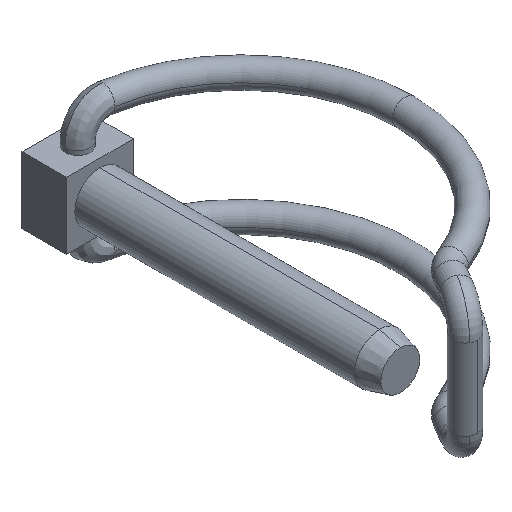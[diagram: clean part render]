
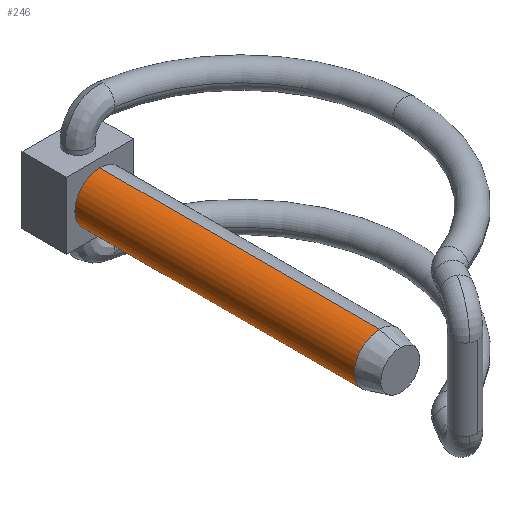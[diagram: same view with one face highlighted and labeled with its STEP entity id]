
A CAD part, isometric view. The second image highlights one B-rep face of the part: STEP entity #246.
In plain terms, the highlighted cylindrical face has radius 5 mm (diameter 10 mm), a partial arc.
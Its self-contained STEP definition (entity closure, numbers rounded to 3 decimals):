
#153 = CARTESIAN_POINT ( 'NONE',  ( 0., -55.853, -5. ) ) ;
#202 = DIRECTION ( 'NONE',  ( 0., 1., 0. ) ) ;
#246 = ADVANCED_FACE ( 'NONE', ( #946 ), #1655, .T. ) ;
#396 = CARTESIAN_POINT ( 'NONE',  ( 0., -60., 0. ) ) ;
#425 = ORIENTED_EDGE ( 'NONE', *, *, #1459, .F. ) ;
#471 = CARTESIAN_POINT ( 'NONE',  ( 0., 0., -5. ) ) ;
#497 = LINE ( 'NONE', #762, #633 ) ;
#537 = AXIS2_PLACEMENT_3D ( 'NONE', #1765, #202, #1212 ) ;
#543 = EDGE_CURVE ( 'NONE', #1306, #1753, #751, .T. ) ;
#633 = VECTOR ( 'NONE', #1755, 1000. ) ;
#701 = EDGE_LOOP ( 'NONE', ( #425, #1721, #1533, #1515 ) ) ;
#751 = LINE ( 'NONE', #1188, #1404 ) ;
#762 = CARTESIAN_POINT ( 'NONE',  ( 0., -60., -5. ) ) ;
#827 = DIRECTION ( 'NONE',  ( 0., 0., 1. ) ) ;
#946 = FACE_OUTER_BOUND ( 'NONE', #701, .T. ) ;
#1071 = CARTESIAN_POINT ( 'NONE',  ( 0., -55.853, 5. ) ) ;
#1176 = DIRECTION ( 'NONE',  ( 0., 0., 1. ) ) ;
#1188 = CARTESIAN_POINT ( 'NONE',  ( 0., -60., 5. ) ) ;
#1212 = DIRECTION ( 'NONE',  ( 0., 0., 1. ) ) ;
#1219 = DIRECTION ( 'NONE',  ( 0., 1., 0. ) ) ;
#1252 = DIRECTION ( 'NONE',  ( 0., 1., 0. ) ) ;
#1301 = DIRECTION ( 'NONE',  ( 0., 1., 0. ) ) ;
#1306 = VERTEX_POINT ( 'NONE', #1071 ) ;
#1308 = CARTESIAN_POINT ( 'NONE',  ( 0., -55.853, 0. ) ) ;
#1324 = EDGE_CURVE ( 'NONE', #1362, #1753, #1612, .T. ) ;
#1362 = VERTEX_POINT ( 'NONE', #471 ) ;
#1372 = AXIS2_PLACEMENT_3D ( 'NONE', #396, #1252, #827 ) ;
#1404 = VECTOR ( 'NONE', #1219, 1000. ) ;
#1440 = CIRCLE ( 'NONE', #1560, 5. ) ;
#1459 = EDGE_CURVE ( 'NONE', #1713, #1362, #497, .T. ) ;
#1515 = ORIENTED_EDGE ( 'NONE', *, *, #1324, .F. ) ;
#1533 = ORIENTED_EDGE ( 'NONE', *, *, #543, .T. ) ;
#1560 = AXIS2_PLACEMENT_3D ( 'NONE', #1308, #1301, #1176 ) ;
#1612 = CIRCLE ( 'NONE', #537, 5. ) ;
#1655 = CYLINDRICAL_SURFACE ( 'NONE', #1372, 5. ) ;
#1713 = VERTEX_POINT ( 'NONE', #153 ) ;
#1721 = ORIENTED_EDGE ( 'NONE', *, *, #1752, .T. ) ;
#1736 = CARTESIAN_POINT ( 'NONE',  ( 0., 0., 5. ) ) ;
#1752 = EDGE_CURVE ( 'NONE', #1713, #1306, #1440, .T. ) ;
#1753 = VERTEX_POINT ( 'NONE', #1736 ) ;
#1755 = DIRECTION ( 'NONE',  ( 0., 1., 0. ) ) ;
#1765 = CARTESIAN_POINT ( 'NONE',  ( 0., 0., 0. ) ) ;
